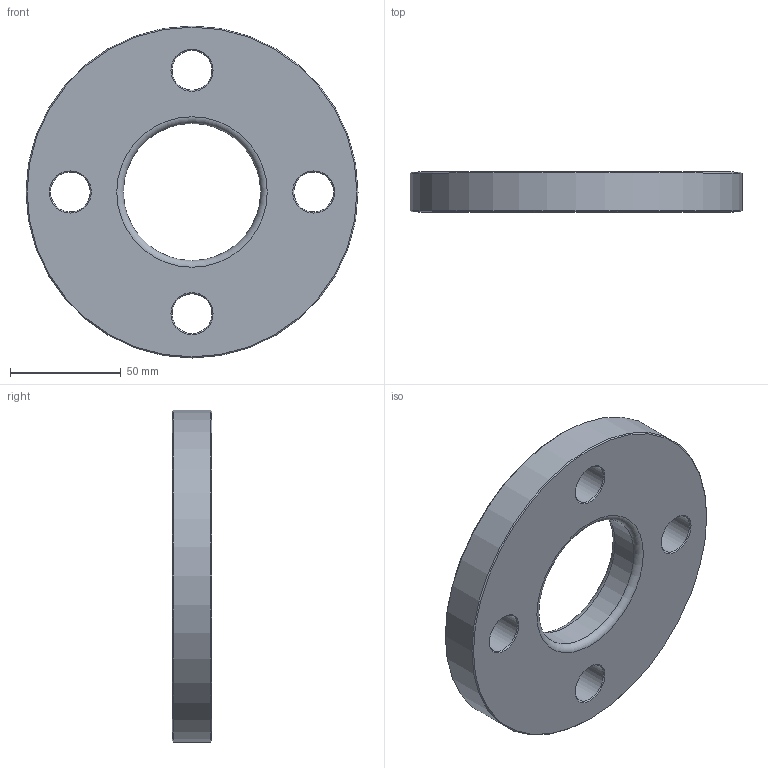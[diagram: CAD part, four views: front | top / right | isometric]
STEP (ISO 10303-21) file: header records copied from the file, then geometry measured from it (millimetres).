
FILE_DESCRIPTION(/* description */ ('Unknown'),/* implementation_level */ '2;1');
FILE_NAME(/* name */ 'FR050C',/* time_stamp */ '2022-07-05T16:02:52+02:00',/* author */ ('Unknown'),/* organization */ ('Unknown'),/* preprocessor_version */ 'ST-DEVELOPER v18.102',/* originating_system */ 'Solid Edge',/* authorisation */ 'Unknown');
FILE_SCHEMA (('AUTOMOTIVE_DESIGN {1 0 10303 214 3 1 1}'));
Length unit declared in the file: millimetre
Products named in the file (1): FR050C
Bounding box: 150 x 18 x 150 mm (x, y, z)
Volume: 244477.4 mm3; surface area: 42428.7 mm2
Topology: 1 solids, 1 shells, 20 faces, 54 edges, 36 vertices
Faces by surface type: cone 10, cylinder 6, plane 2, torus 2
Full cylindrical faces by diameter (mm): 18 x4, 62 x1, 150 x1
Entity records: 494 total; most frequent: DIRECTION 90, CARTESIAN_POINT 69, ORIENTED_EDGE 48, EDGE_LOOP 48, FACE_BOUND 48, AXIS2_PLACEMENT_3D 45, EDGE_CURVE 24, VERTEX_POINT 24
